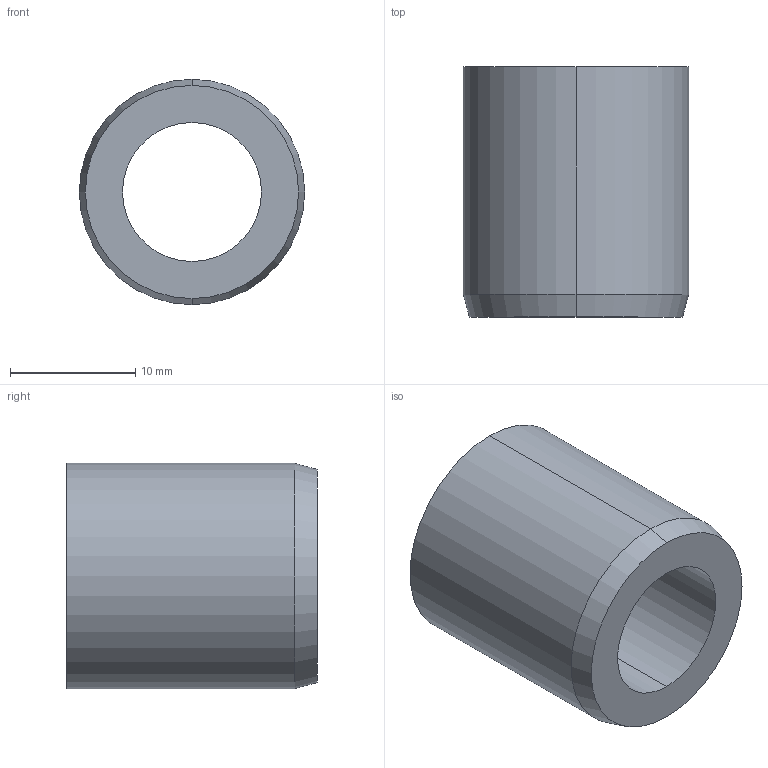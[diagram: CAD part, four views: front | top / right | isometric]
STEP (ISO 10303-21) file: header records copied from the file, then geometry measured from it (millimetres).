
FILE_DESCRIPTION (( 'STEP AP214' ), '1' );
FILE_NAME ('179-B11,1-25-A.step', '2024-10-17T06:02:40', ( '' ), ( '' ), 'SwSTEP 2.0', 'SolidWorks 2022', '' );
FILE_SCHEMA (( 'AUTOMOTIVE_DESIGN' ));
Length unit declared in the file: millimetre
Products named in the file (1): 179-B11,1-25-A
Bounding box: 18 x 20 x 18 mm (x, y, z)
Volume: 3127.5 mm3; surface area: 2109.9 mm2
Topology: 1 solids, 1 shells, 10 faces, 20 edges, 12 vertices
Faces by surface type: cylinder 4, cone 2, torus 2, plane 2
Entity records: 414 total; most frequent: DIRECTION 56, CARTESIAN_POINT 43, ORIENTED_EDGE 40, AXIS2_PLACEMENT_3D 25, EDGE_CURVE 20, CIRCLE 14, UNCERTAINTY_MEASURE_WITH_UNIT 13, EDGE_LOOP 12
